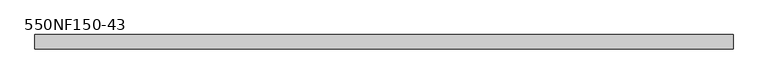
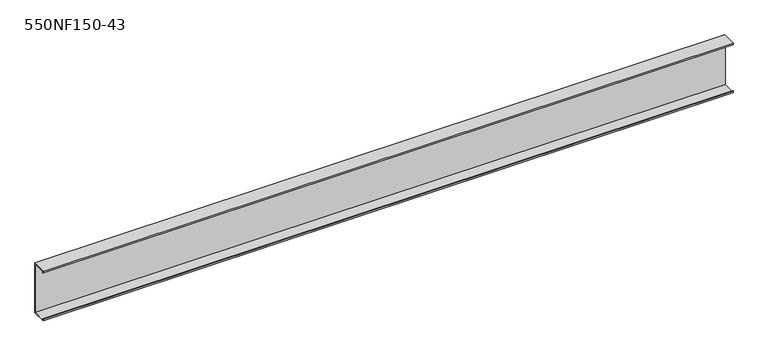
"""IFC4 building model written with IfcOpenShell, lengths in millimetres: beam geometry, BIMSF-SSMA-S : 550NF150-43."""

from ifc_helpers import new_model, si_unit, frame, origin, place, context, project, spatial, polyline, outline, extrude, source, transform, mapped, element, save


def beam_550nf150_43_a34c4b9f(model_context):
    return source(origin(), model_context, "Body", "SweptSolid", [
        extrude(outline(polyline([(19.05, 69.85), (19.05, -69.85), (-19.05, -69.85), (-19.05, -65.0748), (-17.9003158, -65.0748), (-17.9003158, -68.7003158), (17.9003158, -68.7003158), (17.9003158, 68.7003158), (-17.9003158, 68.7003158), (-17.9003158, 65.0748), (-19.05, 65.0748), (-19.05, 69.85), (19.05, 69.85)])), frame((-915.7205544, 0.0, 0.0), z_axis=(1.0, 0.0, 0.0), x_axis=(0.0, 1.0, 0.0)), (0.0, 0.0, 1.0), 1831.4411088),
    ])


if __name__ == "__main__":
    model = new_model("IFC4")
    model_context = context("Model", 3, world=origin())
    ifc_project = project(units=[si_unit("LENGTHUNIT", "METRE", prefix="MILLI")], contexts=[model_context])
    site = spatial("IfcSite", under=ifc_project)
    building = spatial("IfcBuilding", under=site)
    placement = place(None, origin())
    beam_550nf150_43_shape = beam_550nf150_43_a34c4b9f(model_context)
    element("IfcBeam", 1, ObjectType="BIMSF-SSMA-S : 550NF150-43", at=placement, inside=building, context=model_context, shape_type="MappedRepresentation", body=[
        mapped(beam_550nf150_43_shape, transform((0.0, 0.0, 0.0), x_axis=(1.0, 0.0, 0.0), y_axis=(0.0, 1.0, 0.0), z_axis=(0.0, 0.0, 1.0))),
    ])
    save(model, "model.ifc")
